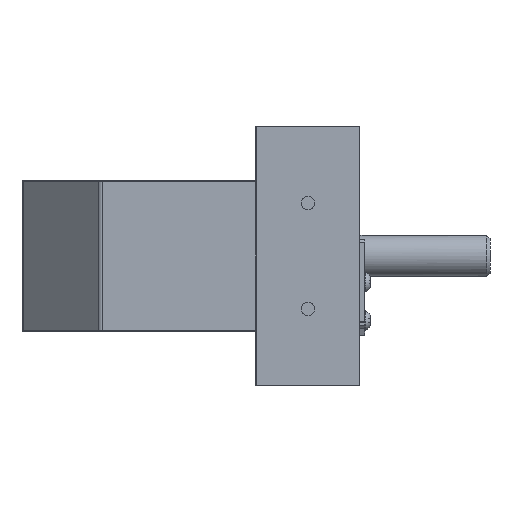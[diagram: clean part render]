
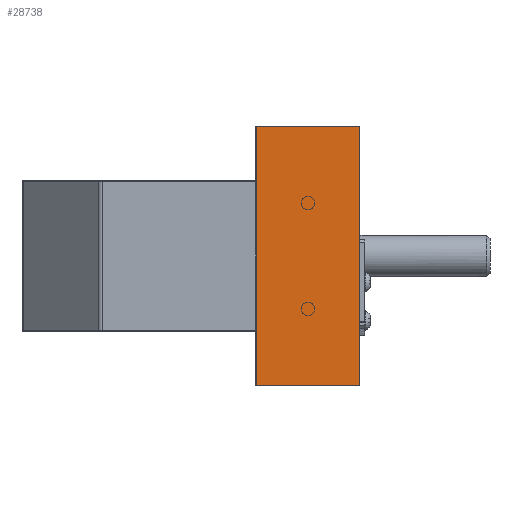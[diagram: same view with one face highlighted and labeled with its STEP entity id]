
A CAD part, left-side view. The second image highlights one B-rep face of the part: STEP entity #28738.
In plain terms, the highlighted planar face has unit normal (-1, 0, 0).
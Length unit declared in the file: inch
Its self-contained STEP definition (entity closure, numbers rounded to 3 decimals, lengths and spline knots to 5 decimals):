
#28361=CARTESIAN_POINT('',(-44.23209,-27.46106,-0.81425));
#28362=VERTEX_POINT('',#28361);
#28363=CARTESIAN_POINT('',(-44.23209,-27.45692,-0.81011));
#28364=VERTEX_POINT('',#28363);
#28365=CARTESIAN_POINT('',(-44.23209,-27.46106,-0.81425));
#28366=DIRECTION('',(0.0,0.707,0.707));
#28367=VECTOR('',#28366,0.00586);
#28368=LINE('',#28365,#28367);
#28369=EDGE_CURVE('',#28362,#28364,#28368,.T.);
#28411=CARTESIAN_POINT('',(-44.23209,-29.00478,3.09575));
#28412=VERTEX_POINT('',#28411);
#28419=CARTESIAN_POINT('',(-44.23209,-29.00892,3.09161));
#28420=VERTEX_POINT('',#28419);
#28421=CARTESIAN_POINT('',(-44.23209,-29.00478,3.09575));
#28422=DIRECTION('',(0.0,-0.707,-0.707));
#28423=VECTOR('',#28422,0.00586);
#28424=LINE('',#28421,#28423);
#28425=EDGE_CURVE('',#28412,#28420,#28424,.T.);
#28441=CARTESIAN_POINT('',(-44.23209,-27.45692,3.09161));
#28442=VERTEX_POINT('',#28441);
#28443=CARTESIAN_POINT('',(-44.23209,-27.46106,3.09575));
#28444=VERTEX_POINT('',#28443);
#28445=CARTESIAN_POINT('',(-44.23209,-27.45692,3.09161));
#28446=DIRECTION('',(0.0,-0.707,0.707));
#28447=VECTOR('',#28446,0.00586);
#28448=LINE('',#28445,#28447);
#28449=EDGE_CURVE('',#28442,#28444,#28448,.T.);
#28488=CARTESIAN_POINT('',(-44.23209,-27.46106,3.09575));
#28489=DIRECTION('',(0.0,-1.0,0.0));
#28490=VECTOR('',#28489,1.54372);
#28491=LINE('',#28488,#28490);
#28492=EDGE_CURVE('',#28444,#28412,#28491,.T.);
#28503=CARTESIAN_POINT('',(-44.23209,-27.45692,-0.81011));
#28504=DIRECTION('',(0.0,0.0,1.0));
#28505=VECTOR('',#28504,3.90172);
#28506=LINE('',#28503,#28505);
#28507=EDGE_CURVE('',#28364,#28442,#28506,.T.);
#28534=CARTESIAN_POINT('',(-44.23209,-29.00892,-0.81011));
#28535=VERTEX_POINT('',#28534);
#28536=CARTESIAN_POINT('',(-44.23209,-29.00892,3.09161));
#28537=DIRECTION('',(0.0,0.0,-1.0));
#28538=VECTOR('',#28537,3.90172);
#28539=LINE('',#28536,#28538);
#28540=EDGE_CURVE('',#28420,#28535,#28539,.T.);
#28565=CARTESIAN_POINT('',(-44.23209,-29.00478,-0.81425));
#28566=VERTEX_POINT('',#28565);
#28567=CARTESIAN_POINT('',(-44.23209,-29.00892,-0.81011));
#28568=DIRECTION('',(0.0,0.707,-0.707));
#28569=VECTOR('',#28568,0.00586);
#28570=LINE('',#28567,#28569);
#28571=EDGE_CURVE('',#28535,#28566,#28570,.T.);
#28594=CARTESIAN_POINT('',(-44.23209,-29.00478,-0.81425));
#28595=DIRECTION('',(0.0,1.0,0.0));
#28596=VECTOR('',#28595,1.54372);
#28597=LINE('',#28594,#28596);
#28598=EDGE_CURVE('',#28566,#28362,#28597,.T.);
#28723=CARTESIAN_POINT('',(-44.23209,-29.00992,1.14075));
#28724=DIRECTION('',(-1.0,0.0,0.0));
#28725=DIRECTION('',(0.0,0.0,1.0));
#28726=AXIS2_PLACEMENT_3D('',#28723,#28724,#28725);
#28727=PLANE('',#28726);
#28728=ORIENTED_EDGE('',*,*,#28449,.F.);
#28729=ORIENTED_EDGE('',*,*,#28507,.F.);
#28730=ORIENTED_EDGE('',*,*,#28369,.F.);
#28731=ORIENTED_EDGE('',*,*,#28598,.F.);
#28732=ORIENTED_EDGE('',*,*,#28571,.F.);
#28733=ORIENTED_EDGE('',*,*,#28540,.F.);
#28734=ORIENTED_EDGE('',*,*,#28425,.F.);
#28735=ORIENTED_EDGE('',*,*,#28492,.F.);
#28736=EDGE_LOOP('',(#28728,#28729,#28730,#28731,#28732,#28733,#28734,#28735));
#28737=FACE_OUTER_BOUND('',#28736,.T.);
#28738=ADVANCED_FACE('',(#28737),#28727,.T.);
